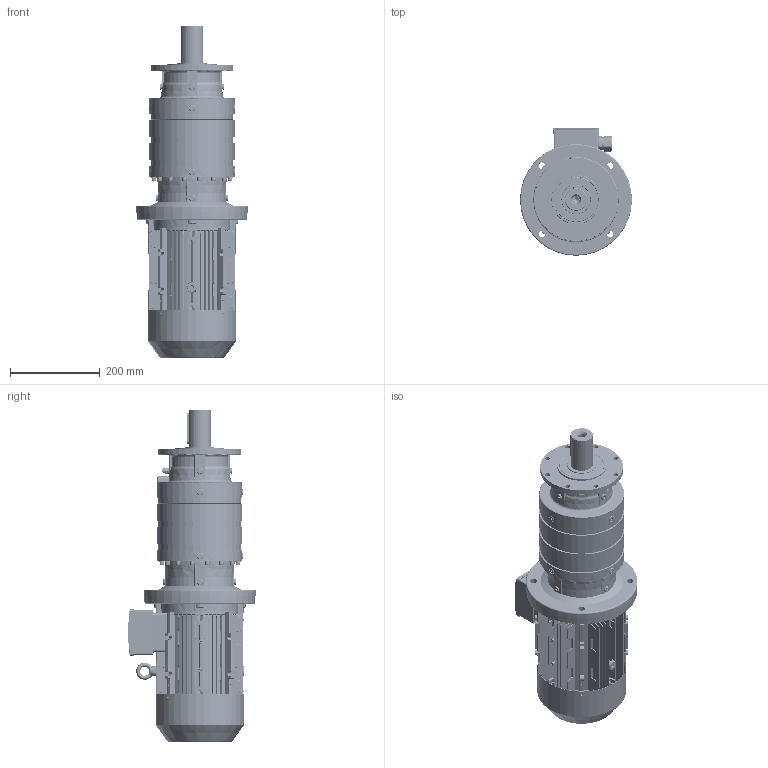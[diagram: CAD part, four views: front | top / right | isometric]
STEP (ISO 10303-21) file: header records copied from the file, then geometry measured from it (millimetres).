
FILE_DESCRIPTION (( 'STEP AP203' ), '1' );
FILE_NAME ('PVL-1103L-MX100-4.STEP', '2019-05-17T06:39:03', ( '' ), ( '' ), 'SwSTEP 2.0', 'SolidWorks 2012', '' );
FILE_SCHEMA (( 'CONFIG_CONTROL_DESIGN' ));
Products named in the file (19): EK1103L; PNL_1103L_0_0_A10_B5_ML7A_FL1A_0_0_0_0_0_0_0_0_0_0_0_M1; IE3 100 casing; FL1A; P11; ML7A; 11100B5; PVL-1103L-MX100-4; MX3-100L_B5; IE3 100 shaft cover; IE3 100 B5 flange; IE3 100 fan; IE3 100 terminal box cover; plain parallel keys_GB_CONNECTING_PIECE_KEYS_CSK 8X50; IE3 100 fan cover; IE3 100 B3 Shield; eyebolts gb_GB_FASTENER_SCREWS_FRS M8-N; IE3 100 Shaft; IE3 100 terminal box base
Assembly tree (19 placements, depth 3):
  PVL-1103L-MX100-4
    PNL_1103L_0_0_A10_B5_ML7A_FL1A_0_0_0_0_0_0_0_0_0_0_0_M1
      P11
      11100B5
      ML7A
      EK1103L
      FL1A
    MX3-100L_B5
      IE3 100 casing
      IE3 100 B3 Shield
      IE3 100 Shaft
      eyebolts gb_GB_FASTENER_SCREWS_FRS M8-N
      IE3 100 terminal box base
      IE3 100 terminal box cover
      IE3 100 fan
      IE3 100 fan cover
      plain parallel keys_GB_CONNECTING_PIECE_KEYS_CSK 8X50
      IE3 100 shaft cover  x2
      IE3 100 B5 flange
Bounding box: 250 x 285 x 741.51 mm (x, y, z)
Volume: 9879587.4 mm3; surface area: 1650694.5 mm2
Topology: 22 solids, 24 shells, 6196 faces, 15722 edges, 9568 vertices
Faces by surface type: plane 1998, bspline 1630, cylinder 1578, cone 506, torus 392, sphere 92
Entity records: 250238 total; most frequent: CARTESIAN_POINT 113188, ORIENTED_EDGE 30738, DIRECTION 24761, EDGE_CURVE 15369, VERTEX_POINT 9460, AXIS2_PLACEMENT_3D 9256, EDGE_LOOP 6703, VECTOR 6249
